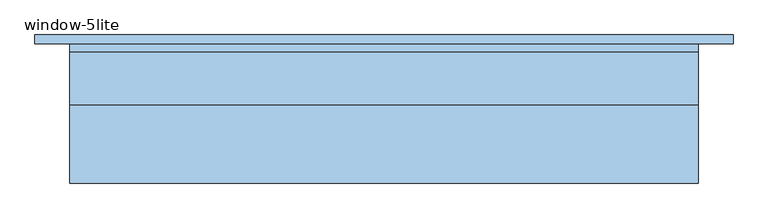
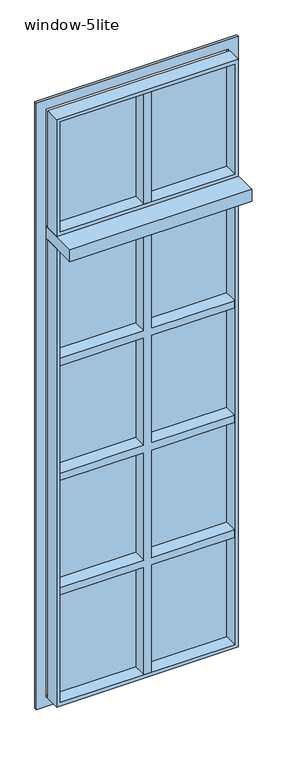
"""IFC4 building model written with IfcOpenShell, lengths in millimetres: window geometry."""

from ifc_helpers import new_model, si_unit, frame, origin, place, context, project, spatial, polyline, outline, extrude, source, transform, mapped, element, save


def window_5lite_268f9a0f(model_context):
    return source(origin(), model_context, "Body", "SweptSolid", [
        extrude(outline(polyline([(204.0793869, 201.6125), (1042.2793869, 201.6125), (1042.2793869, 188.9125), (204.0793869, 188.9125), (204.0793869, 201.6125)])), frame((0.0, 0.0, 4305.3), z_axis=(0.0, 0.0, 1.0), x_axis=(1.0, 0.0, 0.0)), (0.0, 0.0, 1.0), 1143.0),
        extrude(outline(polyline([(-710.3206131, 201.6125), (127.8793869, 201.6125), (127.8793869, 188.9125), (-710.3206131, 188.9125), (-710.3206131, 201.6125)])), frame((0.0, 0.0, 4305.3), z_axis=(0.0, 0.0, 1.0), x_axis=(1.0, 0.0, 0.0)), (0.0, 0.0, 1.0), 1143.0),
        extrude(outline(polyline([(204.0793869, 201.6125), (1042.2793869, 201.6125), (1042.2793869, 188.9125), (204.0793869, 188.9125), (204.0793869, 201.6125)])), frame((0.0, 0.0, 3086.1), z_axis=(0.0, 0.0, 1.0), x_axis=(1.0, 0.0, 0.0)), (0.0, 0.0, 1.0), 1143.0),
        extrude(outline(polyline([(-710.3206131, 201.6125), (127.8793869, 201.6125), (127.8793869, 188.9125), (-710.3206131, 188.9125), (-710.3206131, 201.6125)])), frame((0.0, 0.0, 3086.1), z_axis=(0.0, 0.0, 1.0), x_axis=(1.0, 0.0, 0.0)), (0.0, 0.0, 1.0), 1143.0),
        extrude(outline(polyline([(204.0793869, 201.6125), (1042.2793869, 201.6125), (1042.2793869, 188.9125), (204.0793869, 188.9125), (204.0793869, 201.6125)])), frame((0.0, 0.0, 1866.9), z_axis=(0.0, 0.0, 1.0), x_axis=(1.0, 0.0, 0.0)), (0.0, 0.0, 1.0), 1143.0),
        extrude(outline(polyline([(-710.3206131, 201.6125), (127.8793869, 201.6125), (127.8793869, 188.9125), (-710.3206131, 188.9125), (-710.3206131, 201.6125)])), frame((0.0, 0.0, 1866.9), z_axis=(0.0, 0.0, 1.0), x_axis=(1.0, 0.0, 0.0)), (0.0, 0.0, 1.0), 1143.0),
        extrude(outline(polyline([(204.0793869, 201.6125), (1042.2793869, 201.6125), (1042.2793869, 188.9125), (204.0793869, 188.9125), (204.0793869, 201.6125)])), frame((0.0, 0.0, 647.7), z_axis=(0.0, 0.0, 1.0), x_axis=(1.0, 0.0, 0.0)), (0.0, 0.0, 1.0), 1143.0),
        extrude(outline(polyline([(-710.3206131, 201.6125), (127.8793869, 201.6125), (127.8793869, 188.9125), (-710.3206131, 188.9125), (-710.3206131, 201.6125)])), frame((0.0, 0.0, 647.7), z_axis=(0.0, 0.0, 1.0), x_axis=(1.0, 0.0, 0.0)), (0.0, 0.0, 1.0), 1143.0),
        extrude(outline(polyline([(4305.3, -710.3206131), (4229.1, -710.3206131), (4229.1, 127.8793869), (3086.1, 127.8793869), (3086.1, -710.3206131), (3009.9, -710.3206131), (3009.9, 127.8793869), (1866.9, 127.8793869), (1866.9, -710.3206131), (1790.7, -710.3206131), (1790.7, 127.8793869), (647.7, 127.8793869), (647.7, 204.0793869), (1790.7, 204.0793869), (1790.7, 1042.2793869), (1866.9, 1042.2793869), (1866.9, 204.0793869), (3009.9, 204.0793869), (3009.9, 1042.2793869), (3086.1, 1042.2793869), (3086.1, 204.0793869), (4229.1, 204.0793869), (4229.1, 1042.2793869), (4305.3, 1042.2793869), (4305.3, 204.0793869), (5448.3, 204.0793869), (5448.3, 127.8793869), (4305.3, 127.8793869), (4305.3, -710.3206131)])), frame((0.0, 49.2125, 0.0), z_axis=(0.0, 1.0, 0.0), x_axis=(0.0, 0.0, 1.0)), (0.0, 0.0, 1.0), 152.4),
        extrude(outline(polyline([(5486.4, -748.4206131), (609.6, -748.4206131), (609.6, 1080.3793869), (5486.4, 1080.3793869), (5486.4, -748.4206131)]), holes=[polyline([(5448.3, -710.3206131), (5448.3, 1042.2793869), (647.7, 1042.2793869), (647.7, -710.3206131), (5448.3, -710.3206131)])]), frame((0.0, 49.2125, 0.0), z_axis=(0.0, 1.0, 0.0), x_axis=(0.0, 0.0, 1.0)), (0.0, 0.0, 1.0), 152.4),
        extrude(outline(polyline([(-748.4206131, 227.0125), (1080.3793869, 227.0125), (1080.3793869, -179.3875), (-748.4206131, -179.3875), (-748.4206131, 227.0125)])), frame((0.0, 0.0, 5486.4), z_axis=(0.0, 0.0, 1.0), x_axis=(1.0, 0.0, 0.0)), (0.0, 0.0, 1.0), 127.0),
        extrude(outline(polyline([(204.0793869, 201.6125), (1042.2793869, 201.6125), (1042.2793869, 188.9125), (204.0793869, 188.9125), (204.0793869, 201.6125)])), frame((0.0, 0.0, 5651.5), z_axis=(0.0, 0.0, 1.0), x_axis=(1.0, 0.0, 0.0)), (0.0, 0.0, 1.0), 1168.4),
        extrude(outline(polyline([(-710.3206131, 201.6125), (127.8793869, 201.6125), (127.8793869, 188.9125), (-710.3206131, 188.9125), (-710.3206131, 201.6125)])), frame((0.0, 0.0, 5651.5), z_axis=(0.0, 0.0, 1.0), x_axis=(1.0, 0.0, 0.0)), (0.0, 0.0, 1.0), 1168.4),
        extrude(outline(polyline([(127.8793869, 201.6125), (204.0793869, 201.6125), (204.0793869, 49.2125), (127.8793869, 49.2125), (127.8793869, 201.6125)])), frame((0.0, 0.0, 5651.5), z_axis=(0.0, 0.0, 1.0), x_axis=(1.0, 0.0, 0.0)), (0.0, 0.0, 1.0), 1168.4),
        extrude(outline(polyline([(5613.4, 1080.3793869), (6858.0, 1080.3793869), (6858.0, -748.4206131), (5613.4, -748.4206131), (5613.4, 1080.3793869)]), holes=[polyline([(6819.9, -710.3206131), (6819.9, 1042.2793869), (5651.5, 1042.2793869), (5651.5, -710.3206131), (6819.9, -710.3206131)])]), frame((0.0, 49.2125, 0.0), z_axis=(0.0, 1.0, 0.0), x_axis=(0.0, 0.0, 1.0)), (0.0, 0.0, 1.0), 152.4),
        extrude(outline(polyline([(6959.6, -850.0206131), (508.0, -850.0206131), (508.0, 1181.9793869), (6959.6, 1181.9793869), (6959.6, -850.0206131)]), holes=[polyline([(6858.0, -748.4206131), (6858.0, 1080.3793869), (609.6, 1080.3793869), (609.6, -748.4206131), (6858.0, -748.4206131)])]), frame((0.0, 227.0125, 0.0), z_axis=(0.0, 1.0, 0.0), x_axis=(0.0, 0.0, 1.0)), (0.0, 0.0, 1.0), 25.4),
    ])


if __name__ == "__main__":
    model = new_model("IFC4")
    model_context = context("Model", 3, world=origin())
    ifc_project = project(units=[si_unit("LENGTHUNIT", "METRE", prefix="MILLI")], contexts=[model_context])
    site = spatial("IfcSite", under=ifc_project)
    building = spatial("IfcBuilding", under=site)
    placement = place(None, origin())
    window_5lite_shape = window_5lite_268f9a0f(model_context)
    element("IfcWindow", 1, ObjectType="window-5lite : 20'-6\" x 4'v x 6'to2'-4\"h", at=placement, inside=building, context=model_context, shape_type="MappedRepresentation", body=[
        mapped(window_5lite_shape, transform((0.0, 0.0, 0.0), x_axis=(1.0, 0.0, 0.0), y_axis=(0.0, 1.0, 0.0), z_axis=(0.0, 0.0, 1.0))),
    ])
    save(model, "model.ifc")
